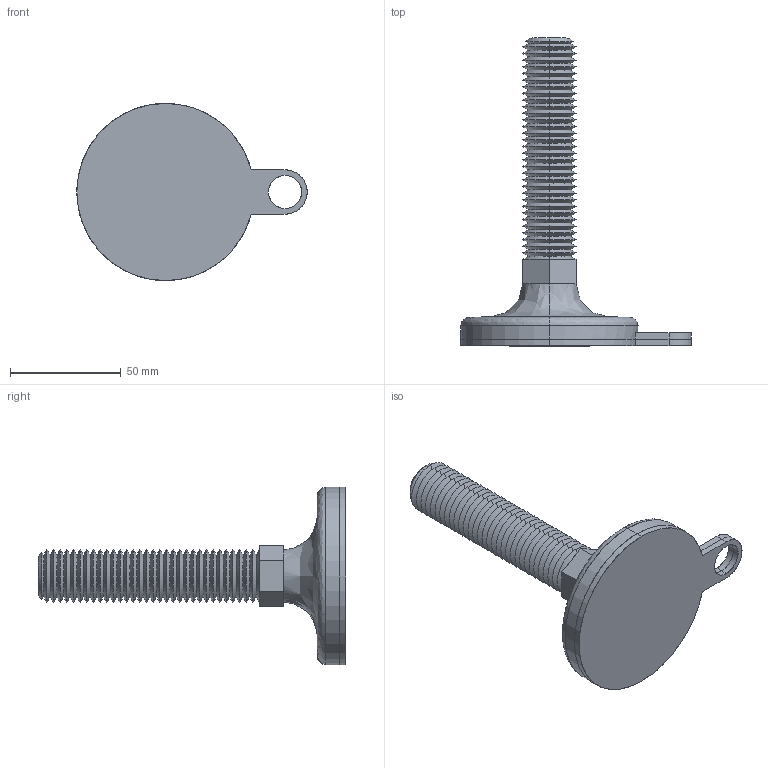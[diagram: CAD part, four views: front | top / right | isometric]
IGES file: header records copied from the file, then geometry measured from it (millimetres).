
Start section: SolidWorks IGES file using analytic representation for surfaces
Global section: file name: C:\Users\liam_\OneDrive\Documents\WORK\Work for WixRoyd\Job Files\J-00026 - Matt Davis CAD - 20191124\04. CAD Drawings\Wixroyd20191124\34704_v2\34704_v2_20191128_IGES\34704.W2401.igs; native system: SolidWorks 2017; preprocessor: SolidWorks 2017; author: liam_; date: 191128.202913; units: millimetre
Bounding box: 104 x 139 x 80 mm (x, y, z)
Surface area: 39458.3 mm2 (no closed solid volume)
Topology: 0 solids, 0 shells, 177 faces, 1340 edges, 1340 vertices
Faces by surface type: revolution 145, bspline 32
